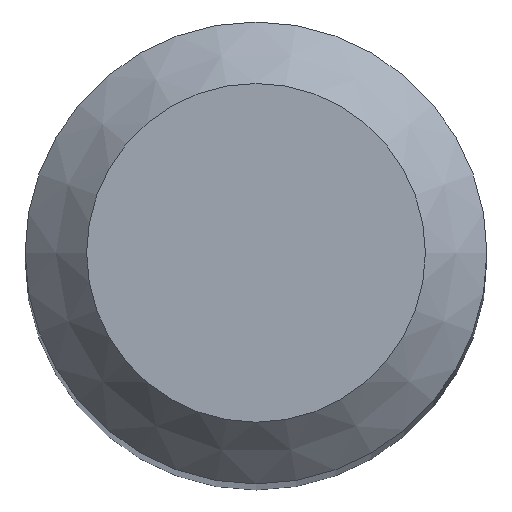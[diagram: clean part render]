
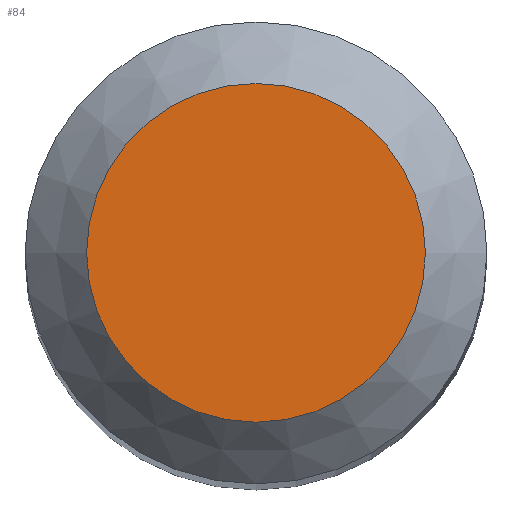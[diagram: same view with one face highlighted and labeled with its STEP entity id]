
A CAD part, top view. The second image highlights one B-rep face of the part: STEP entity #84.
In plain terms, the highlighted planar face has unit normal (0, 0, 1).
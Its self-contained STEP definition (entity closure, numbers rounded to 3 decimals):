
#68=CARTESIAN_POINT('',(2.2,0.0,60.0));
#69=DIRECTION('',(0.0,0.0,1.0));
#70=DIRECTION('',(1.0,0.0,0.0));
#71=AXIS2_PLACEMENT_3D('',#68,#69,#70);
#72=PLANE('',#71);
#73=CARTESIAN_POINT('',(-2.2,0.0,60.0));
#74=VERTEX_POINT('',#73);
#75=CARTESIAN_POINT('',(0.0,0.0,60.0));
#76=DIRECTION('',(0.0,0.0,-1.0));
#77=DIRECTION('',(-1.0,0.0,0.0));
#78=AXIS2_PLACEMENT_3D('',#75,#76,#77);
#79=CIRCLE('',#78,2.2);
#80=EDGE_CURVE('',#74,#74,#79,.T.);
#81=ORIENTED_EDGE('',*,*,#80,.F.);
#82=EDGE_LOOP('',(#81));
#83=FACE_OUTER_BOUND('',#82,.T.);
#84=ADVANCED_FACE('',(#83),#72,.T.);
